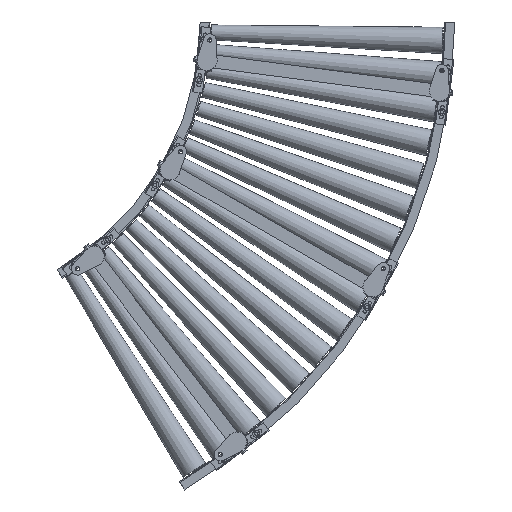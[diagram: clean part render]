
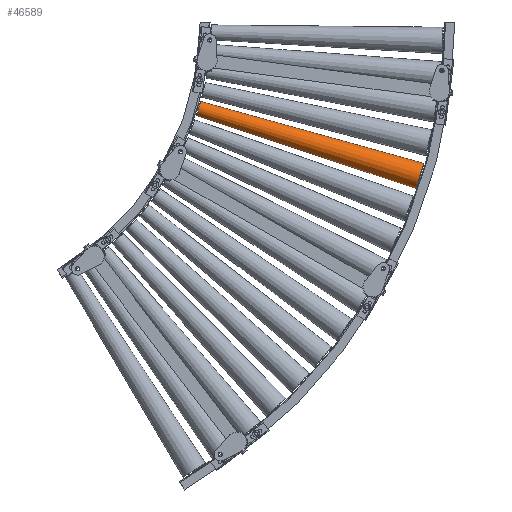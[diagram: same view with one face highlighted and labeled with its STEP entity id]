
A CAD part, front view. The second image highlights one B-rep face of the part: STEP entity #46589.
In plain terms, the highlighted conical face has half-angle 1.435 degrees and reference radius 40.3 mm.
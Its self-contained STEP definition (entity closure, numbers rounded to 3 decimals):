
#3050 = VERTEX_POINT ( 'NONE', #127730 ) ;
#9329 = VERTEX_POINT ( 'NONE', #103803 ) ;
#16638 = VERTEX_POINT ( 'NONE', #136607 ) ;
#19716 = ORIENTED_EDGE ( 'NONE', *, *, #54249, .T. ) ;
#23749 = CIRCLE ( 'NONE', #60187, 40.3 ) ;
#31754 = CARTESIAN_POINT ( 'NONE',  ( 1539.25, -40.287, -468.638 ) ) ;
#31769 = EDGE_CURVE ( 'NONE', #104524, #3050, #47425, .T. ) ;
#46589 = ADVANCED_FACE ( 'NONE', ( #84487 ), #98776, .T. ) ;
#47425 = LINE ( 'NONE', #76419, #51015 ) ;
#51015 = VECTOR ( 'NONE', #54503, 1000. ) ;
#53985 = ORIENTED_EDGE ( 'NONE', *, *, #111894, .F. ) ;
#54249 = EDGE_CURVE ( 'NONE', #3050, #9329, #23749, .T. ) ;
#54503 = DIRECTION ( 'NONE',  ( 0.949, -0.025, -0.315 ) ) ;
#56759 = DIRECTION ( 'NONE',  ( -0.956, 0.025, 0.291 ) ) ;
#60187 = AXIS2_PLACEMENT_3D ( 'NONE', #103206, #127657, #139058 ) ;
#65045 = ORIENTED_EDGE ( 'NONE', *, *, #132104, .F. ) ;
#69177 = ORIENTED_EDGE ( 'NONE', *, *, #31769, .T. ) ;
#72024 = EDGE_LOOP ( 'NONE', ( #65045, #53985, #69177, #19716 ) ) ;
#76419 = CARTESIAN_POINT ( 'NONE',  ( 1527.512, -40.287, -507.191 ) ) ;
#77102 = CIRCLE ( 'NONE', #103837, 22.65 ) ;
#77464 = AXIS2_PLACEMENT_3D ( 'NONE', #31754, #122754, #98728 ) ;
#81949 = VECTOR ( 'NONE', #134361, 1000. ) ;
#84487 = FACE_OUTER_BOUND ( 'NONE', #72024, .T. ) ;
#98728 = DIRECTION ( 'NONE',  ( -0.291, 0., -0.957 ) ) ;
#98776 = CONICAL_SURFACE ( 'NONE', #77464, 40.3, 0.025 ) ;
#101712 = LINE ( 'NONE', #136317, #81949 ) ;
#103206 = CARTESIAN_POINT ( 'NONE',  ( 1539.25, -40.287, -468.638 ) ) ;
#103803 = CARTESIAN_POINT ( 'NONE',  ( 1550.988, -40.287, -430.086 ) ) ;
#103837 = AXIS2_PLACEMENT_3D ( 'NONE', #136238, #56759, #148166 ) ;
#104524 = VERTEX_POINT ( 'NONE', #121679 ) ;
#111894 = EDGE_CURVE ( 'NONE', #104524, #16638, #77102, .T. ) ;
#121679 = CARTESIAN_POINT ( 'NONE',  ( 858.642, -22.643, -285.098 ) ) ;
#122754 = DIRECTION ( 'NONE',  ( 0.956, -0.025, -0.291 ) ) ;
#127657 = DIRECTION ( 'NONE',  ( -0.956, 0.025, 0.291 ) ) ;
#127730 = CARTESIAN_POINT ( 'NONE',  ( 1527.512, -40.287, -507.191 ) ) ;
#132104 = EDGE_CURVE ( 'NONE', #16638, #9329, #101712, .T. ) ;
#134361 = DIRECTION ( 'NONE',  ( 0.963, -0.025, -0.267 ) ) ;
#136238 = CARTESIAN_POINT ( 'NONE',  ( 865.239, -22.643, -263.43 ) ) ;
#136317 = CARTESIAN_POINT ( 'NONE',  ( 1550.988, -40.287, -430.086 ) ) ;
#136607 = CARTESIAN_POINT ( 'NONE',  ( 871.836, -22.643, -241.762 ) ) ;
#139058 = DIRECTION ( 'NONE',  ( 0.291, 0., 0.957 ) ) ;
#148166 = DIRECTION ( 'NONE',  ( 0.291, 0., 0.957 ) ) ;
